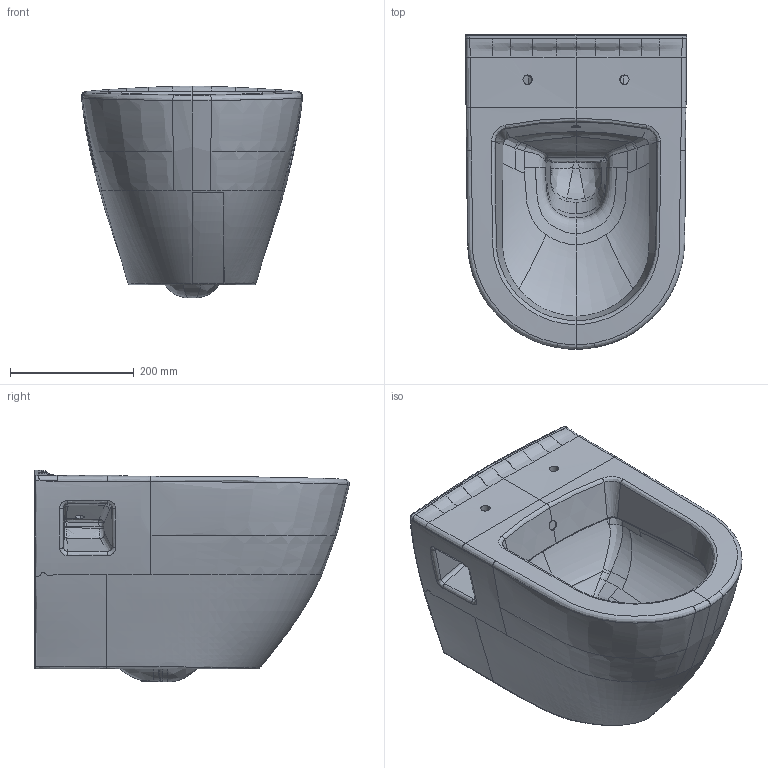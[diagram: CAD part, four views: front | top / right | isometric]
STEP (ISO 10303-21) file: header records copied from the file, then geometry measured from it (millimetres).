
FILE_DESCRIPTION (( 'STEP AP203' ), '1' );
FILE_NAME ('TP325.STEP', '2018-10-22T06:11:12', ( '' ), ( '' ), 'SwSTEP 2.0', 'SolidWorks 2018', '' );
FILE_SCHEMA (( 'CONFIG_CONTROL_DESIGN' ));
Products named in the file (1): TP325
Bounding box: 358.03 x 509.36 x 342.76 mm (x, y, z)
Volume: 18221339.6 mm3; surface area: 1388431.4 mm2
Topology: 2 solids, 2 shells, 1282 faces, 3304 edges, 2036 vertices
Faces by surface type: bspline 947, cylinder 175, plane 123, torus 17, cone 12, sphere 8
Entity records: 335328 total; most frequent: CARTESIAN_POINT 312553, ORIENTED_EDGE 6562, EDGE_CURVE 3281, B_SPLINE_CURVE_WITH_KNOTS 2462, VERTEX_POINT 2036, DIRECTION 1923, EDGE_LOOP 1335, ADVANCED_FACE 1282
